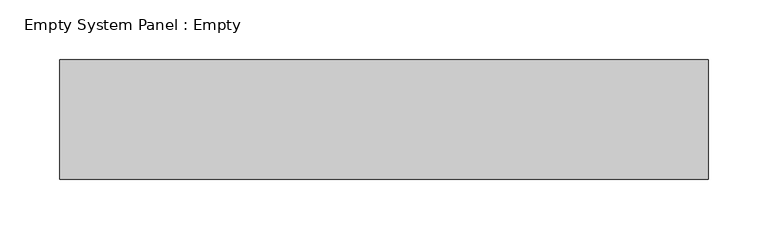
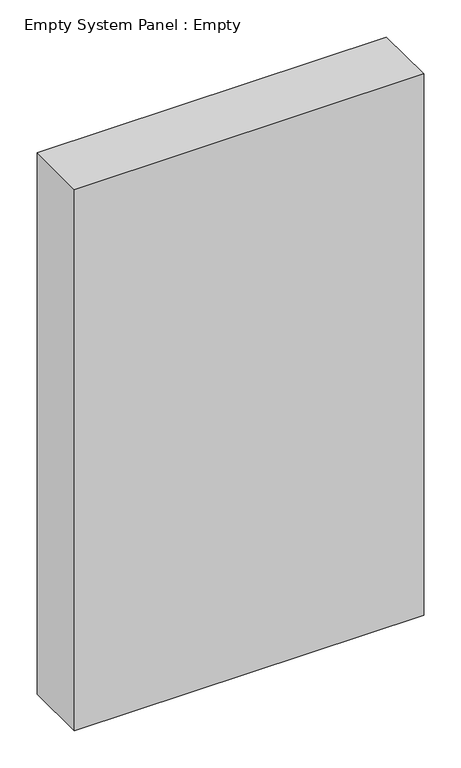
"""IFC4 building model written with IfcOpenShell, lengths in millimetres: plate geometry, Empty System Panel : Empty."""

from ifc_helpers import new_model, si_unit, origin, origin_with_axes, place, context, project, spatial, polyline, outline, extrude, source, transform, mapped, element, save


def empty_system_panel_empty_42881ea0(model_context):
    return source(origin(), model_context, "Body", "SweptSolid", [
        extrude(outline(polyline([(271.6623204, -50.0), (-271.6623204, -50.0), (-271.6623204, 50.0), (271.6623204, 50.0), (271.6623204, -50.0)])), origin_with_axes(), (0.0, 0.0, 1.0), 890.0),
    ])


if __name__ == "__main__":
    model = new_model("IFC4")
    model_context = context("Model", 3, world=origin())
    ifc_project = project(units=[si_unit("LENGTHUNIT", "METRE", prefix="MILLI")], contexts=[model_context])
    site = spatial("IfcSite", under=ifc_project)
    building = spatial("IfcBuilding", under=site)
    placement = place(None, origin())
    empty_system_panel_empty_shape = empty_system_panel_empty_42881ea0(model_context)
    element("IfcPlate", 1, ObjectType="Empty System Panel : Empty", at=placement, inside=building, context=model_context, shape_type="MappedRepresentation", body=[
        mapped(empty_system_panel_empty_shape, transform((0.0, 0.0, 0.0), x_axis=(1.0, 0.0, 0.0), y_axis=(0.0, 1.0, 0.0), z_axis=(0.0, 0.0, 1.0))),
    ])
    save(model, "model.ifc")
